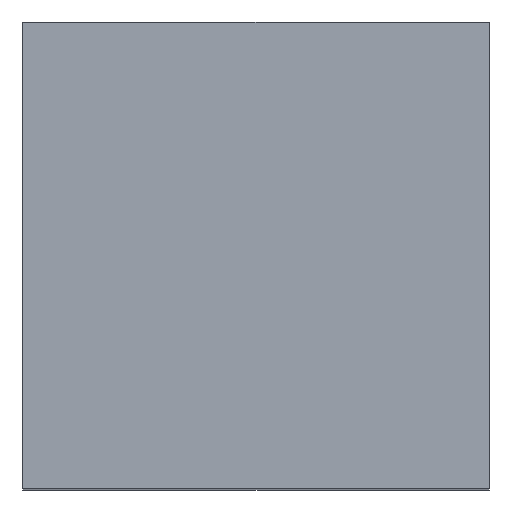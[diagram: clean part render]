
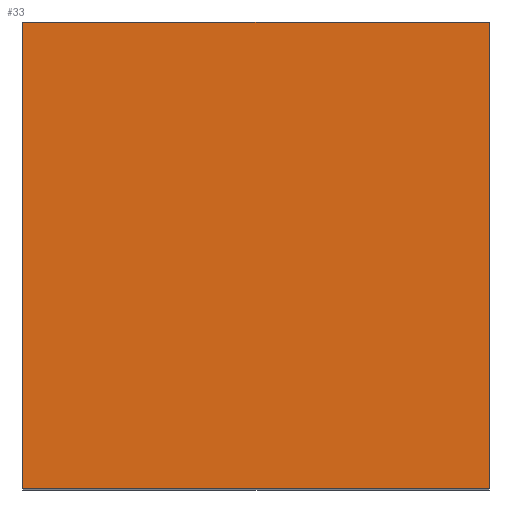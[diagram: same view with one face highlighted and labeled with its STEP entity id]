
A CAD part, top view. The second image highlights one B-rep face of the part: STEP entity #33.
In plain terms, the highlighted planar face has unit normal (0, 0, 1).
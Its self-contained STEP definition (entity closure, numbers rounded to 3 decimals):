
#12 = CARTESIAN_POINT ( 'NONE',  ( 0., 675., 900. ) ) ;
#14 = ORIENTED_EDGE ( 'NONE', *, *, #93, .F. ) ;
#18 = VERTEX_POINT ( 'NONE', #12 ) ;
#25 = DIRECTION ( 'NONE',  ( 0., 1., 0. ) ) ;
#33 = ADVANCED_FACE ( 'NONE', ( #233 ), #217, .T. ) ;
#41 = DIRECTION ( 'NONE',  ( 0., 1., 0. ) ) ;
#44 = LINE ( 'NONE', #142, #50 ) ;
#50 = VECTOR ( 'NONE', #25, 1000. ) ;
#60 = EDGE_CURVE ( 'NONE', #212, #18, #170, .T. ) ;
#68 = LINE ( 'NONE', #206, #208 ) ;
#70 = CARTESIAN_POINT ( 'NONE',  ( -675., 675., 900. ) ) ;
#84 = LINE ( 'NONE', #207, #216 ) ;
#93 = EDGE_CURVE ( 'NONE', #212, #232, #68, .T. ) ;
#94 = DIRECTION ( 'NONE',  ( 1., 0., 0. ) ) ;
#100 = DIRECTION ( 'NONE',  ( -1., 0., 0. ) ) ;
#103 = CARTESIAN_POINT ( 'NONE',  ( 0., 0., 900. ) ) ;
#104 = CARTESIAN_POINT ( 'NONE',  ( -675., 0., 900. ) ) ;
#111 = DIRECTION ( 'NONE',  ( 0., 0., 1. ) ) ;
#125 = EDGE_CURVE ( 'NONE', #232, #185, #44, .T. ) ;
#137 = CARTESIAN_POINT ( 'NONE',  ( 0., 0., 900. ) ) ;
#142 = CARTESIAN_POINT ( 'NONE',  ( -675., 0., 900. ) ) ;
#152 = VECTOR ( 'NONE', #41, 1000. ) ;
#164 = AXIS2_PLACEMENT_3D ( 'NONE', #171, #111, #94 ) ;
#170 = LINE ( 'NONE', #137, #152 ) ;
#171 = CARTESIAN_POINT ( 'NONE',  ( 0., 0., 900. ) ) ;
#172 = EDGE_LOOP ( 'NONE', ( #229, #218, #201, #14 ) ) ;
#177 = DIRECTION ( 'NONE',  ( -1., 0., 0. ) ) ;
#185 = VERTEX_POINT ( 'NONE', #70 ) ;
#201 = ORIENTED_EDGE ( 'NONE', *, *, #125, .F. ) ;
#206 = CARTESIAN_POINT ( 'NONE',  ( 0., 0., 900. ) ) ;
#207 = CARTESIAN_POINT ( 'NONE',  ( 0., 675., 900. ) ) ;
#208 = VECTOR ( 'NONE', #177, 1000. ) ;
#212 = VERTEX_POINT ( 'NONE', #103 ) ;
#216 = VECTOR ( 'NONE', #100, 1000. ) ;
#217 = PLANE ( 'NONE',  #164 ) ;
#218 = ORIENTED_EDGE ( 'NONE', *, *, #228, .T. ) ;
#228 = EDGE_CURVE ( 'NONE', #18, #185, #84, .T. ) ;
#229 = ORIENTED_EDGE ( 'NONE', *, *, #60, .T. ) ;
#232 = VERTEX_POINT ( 'NONE', #104 ) ;
#233 = FACE_OUTER_BOUND ( 'NONE', #172, .T. ) ;
